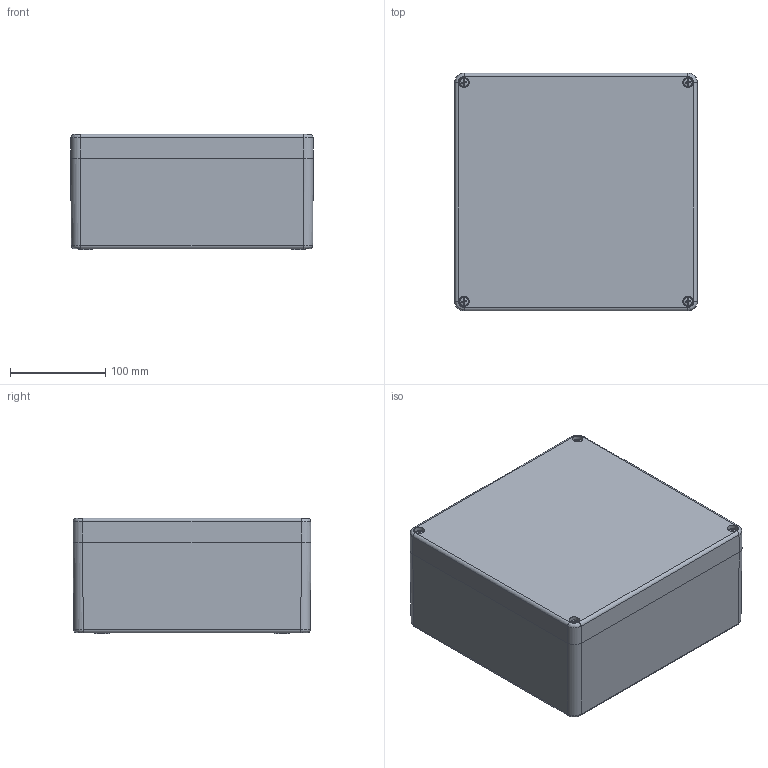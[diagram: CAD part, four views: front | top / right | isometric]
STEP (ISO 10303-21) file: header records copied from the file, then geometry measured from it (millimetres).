
FILE_DESCRIPTION(/* description */ (''),/* implementation_level */ '2;1');
FILE_NAME(/* name */ 'E:\Eng\Customer Service\Drawings\working on 1590ZGRP\STEP\1590ZGRP234\1590ZGRP234.iam.stp',/* time_stamp */ '2016-02-02T08:21:12-05:00',/* author */ ('kbond'),/* organization */ (''),/* preprocessor_version */ 'ST-DEVELOPER v16.1',/* originating_system */ 'Autodesk Inventor 2016',/* authorisation */ '');
FILE_SCHEMA (('AUTOMOTIVE_DESIGN { 1 0 10303 214 3 1 1 }'));
Length unit declared in the file: millimetre
Products named in the file (6): 1590ZGRP234 box; 1590ZGRP234 lid; 1590ZGRP234PL; 1590ZGRP234 gasket; (screw M6-1X 30mm PN); 1590ZGRP234
Assembly tree (8 placements, depth 2):
  1590ZGRP234
    1590ZGRP234 box
    1590ZGRP234 lid
    1590ZGRP234PL
    1590ZGRP234 gasket
    (screw M6-1X 30mm PN)  x4
Bounding box: 255 x 250 x 121.25 mm (x, y, z)
Volume: 1594293.2 mm3; surface area: 623641.4 mm2
Topology: 8 solids, 8 shells, 455 faces, 1160 edges, 762 vertices
Faces by surface type: plane 253, cone 84, cylinder 74, torus 28, bspline 8, sphere 8
Full cylindrical faces by diameter (mm): 4.5 x8, 4.917 x10, 5.28 x4, 5.88 x4, 6 x4, 6.4 x4, 6.8 x4, 7 x6, 10.8 x4
Entity records: 10573 total; most frequent: CARTESIAN_POINT 2040, DIRECTION 1824, ORIENTED_EDGE 1598, EDGE_CURVE 799, AXIS2_PLACEMENT_3D 685, VERTEX_POINT 557, EDGE_LOOP 478, LINE 454
